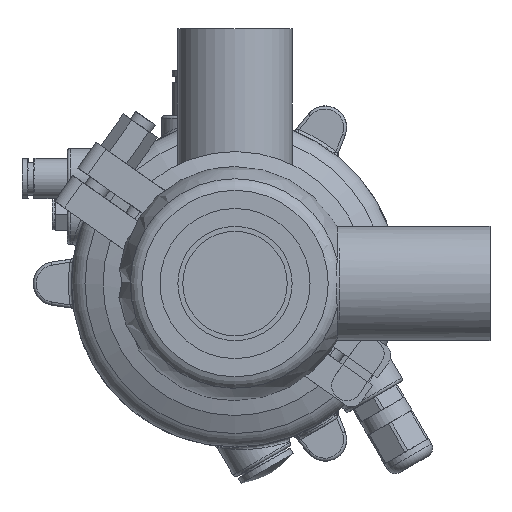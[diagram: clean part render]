
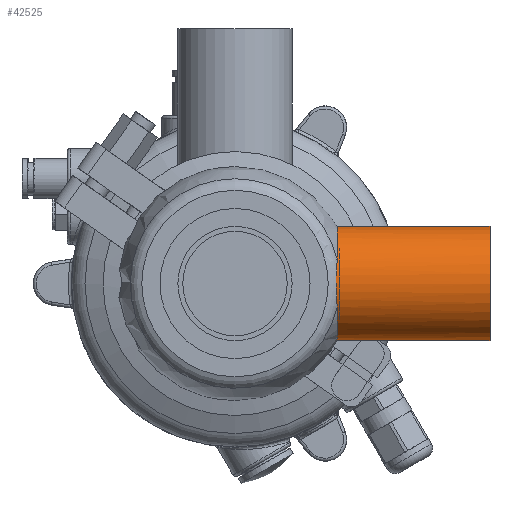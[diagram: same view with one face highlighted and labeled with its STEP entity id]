
A CAD part, front view. The second image highlights one B-rep face of the part: STEP entity #42525.
In plain terms, the highlighted cylindrical face has radius 19.05 mm (diameter 38.1 mm), a full revolution.
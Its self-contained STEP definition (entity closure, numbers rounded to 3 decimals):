
#936 = ORIENTED_EDGE ( 'NONE', *, *, #5887, .T. ) ;
#1565 = CARTESIAN_POINT ( 'NONE',  ( 0., 0., 0. ) ) ;
#1697 = CARTESIAN_POINT ( 'NONE',  ( 33.756, -18.872, 2.686 ) ) ;
#2166 = AXIS2_PLACEMENT_3D ( 'NONE', #21071, #16485, #21360 ) ;
#5887 = EDGE_CURVE ( 'NONE', #7190, #58416, #50900, .T. ) ;
#5961 = CARTESIAN_POINT ( 'NONE',  ( 33.675, -19.05, 0.667 ) ) ;
#6261 = CARTESIAN_POINT ( 'NONE',  ( 34.031, -17.366, -7.83 ) ) ;
#6264 = CARTESIAN_POINT ( 'NONE',  ( 33.8, -18.765, 3.352 ) ) ;
#6898 = AXIS2_PLACEMENT_3D ( 'NONE', #53287, #11927, #20490 ) ;
#7190 = VERTEX_POINT ( 'NONE', #41548 ) ;
#11147 = CARTESIAN_POINT ( 'NONE',  ( 33.937, -18.342, 5.317 ) ) ;
#11927 = DIRECTION ( 'NONE',  ( 1., 0., 0. ) ) ;
#12690 = DIRECTION ( 'NONE',  ( 0., 0., 1. ) ) ;
#15100 = CARTESIAN_POINT ( 'NONE',  ( 34.031, -17.924, -6.593 ) ) ;
#16485 = DIRECTION ( 'NONE',  ( -1., 0., 0. ) ) ;
#17274 = FACE_OUTER_BOUND ( 'NONE', #58484, .T. ) ;
#17830 = EDGE_LOOP ( 'NONE', ( #47435, #936 ) ) ;
#20490 = DIRECTION ( 'NONE',  ( 0., 0., 1. ) ) ;
#21071 = CARTESIAN_POINT ( 'NONE',  ( 85., 0., 0. ) ) ;
#21360 = DIRECTION ( 'NONE',  ( 0., 0., 1. ) ) ;
#23907 = CARTESIAN_POINT ( 'NONE',  ( 85., 0., 19.05 ) ) ;
#28420 = ORIENTED_EDGE ( 'NONE', *, *, #43219, .T. ) ;
#29598 = DIRECTION ( 'NONE',  ( -1., 0., 0. ) ) ;
#30307 = CARTESIAN_POINT ( 'NONE',  ( 34.031, -17.366, 7.83 ) ) ;
#36099 = CYLINDRICAL_SURFACE ( 'NONE', #45765, 19.05 ) ;
#38199 = CARTESIAN_POINT ( 'NONE',  ( 33.936, -18.344, -5.312 ) ) ;
#41548 = CARTESIAN_POINT ( 'NONE',  ( 34.031, -17.366, 7.83 ) ) ;
#42525 = ADVANCED_FACE ( 'NONE', ( #43843, #17274 ), #36099, .T. ) ;
#42766 = CARTESIAN_POINT ( 'NONE',  ( 33.675, -19.05, -0.671 ) ) ;
#43075 = CARTESIAN_POINT ( 'NONE',  ( 34.031, -17.925, 6.591 ) ) ;
#43219 = EDGE_CURVE ( 'NONE', #52132, #52132, #49703, .T. ) ;
#43843 = FACE_OUTER_BOUND ( 'NONE', #17830, .T. ) ;
#43977 = CARTESIAN_POINT ( 'NONE',  ( 34.031, -17.366, -7.83 ) ) ;
#45765 = AXIS2_PLACEMENT_3D ( 'NONE', #1565, #29598, #12690 ) ;
#47435 = ORIENTED_EDGE ( 'NONE', *, *, #54033, .T. ) ;
#48819 = CARTESIAN_POINT ( 'NONE',  ( 33.693, -19.015, -1.338 ) ) ;
#49703 = CIRCLE ( 'NONE', #2166, 19.05 ) ;
#50900 = B_SPLINE_CURVE_WITH_KNOTS ( 'NONE', 3,
 ( #30307, #43075, #11147, #6264, #1697, #52487, #5961, #42766, #48819, #52789, #57356, #38199, #15100, #43977 ),
 .UNSPECIFIED., .F., .F.,
 ( 4, 2, 2, 2, 2, 2, 4 ),
 ( 0., 0.004, 0.006, 0.008, 0.01, 0.012, 0.016 ),
 .UNSPECIFIED. ) ;
#52132 = VERTEX_POINT ( 'NONE', #23907 ) ;
#52487 = CARTESIAN_POINT ( 'NONE',  ( 33.693, -19.015, 1.339 ) ) ;
#52568 = CIRCLE ( 'NONE', #6898, 19.05 ) ;
#52789 = CARTESIAN_POINT ( 'NONE',  ( 33.755, -18.874, -2.667 ) ) ;
#53287 = CARTESIAN_POINT ( 'NONE',  ( 34.031, 0., 0. ) ) ;
#54033 = EDGE_CURVE ( 'NONE', #58416, #7190, #52568, .T. ) ;
#57356 = CARTESIAN_POINT ( 'NONE',  ( 33.799, -18.769, -3.33 ) ) ;
#58416 = VERTEX_POINT ( 'NONE', #6261 ) ;
#58484 = EDGE_LOOP ( 'NONE', ( #28420 ) ) ;
